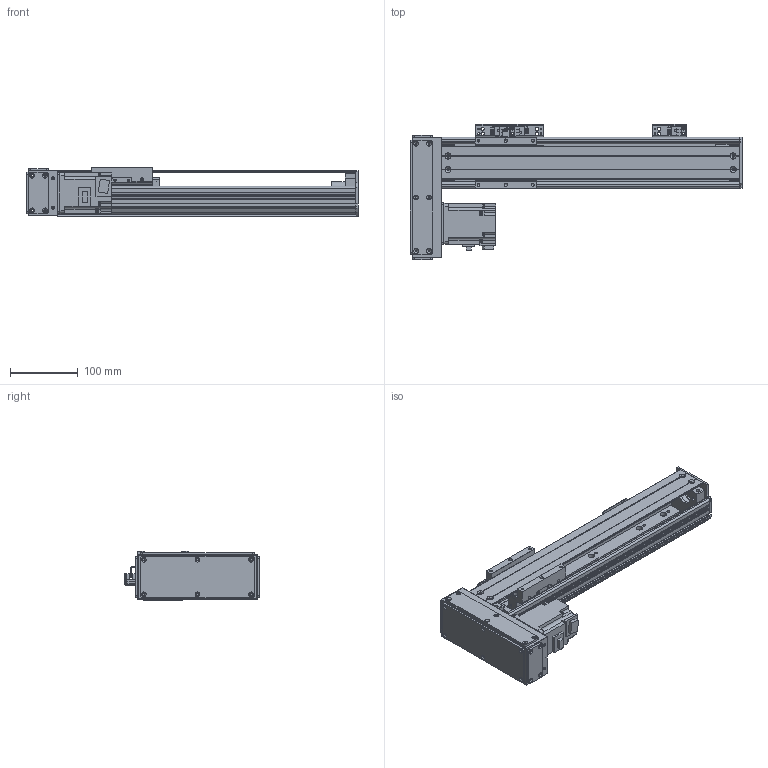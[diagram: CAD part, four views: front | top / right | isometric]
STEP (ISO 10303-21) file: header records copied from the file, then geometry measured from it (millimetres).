
FILE_DESCRIPTION(/* description */ (''),/* implementation_level */ '2;1');
FILE_NAME(/* name */ '\\192.168.0.160\disk1\HAN SHIN Master\B-설계부문\C-표준\B-2024년\BC02-표준도면\+로봇 개선표준도면\홈페이지 표준 도면\홈페이지 최종 작업 폴더\3D\HR\HR75\HR75병렬\우병렬\HR75-R20-N1B-0250-L10.stp',/* time_stamp */ '2025-01-18T16:06:08+09:00',/* author */ ('user'),/* organization */ (''),/* preprocessor_version */ 'ST-DEVELOPER v18.1',/* originating_system */ 'Autodesk Inventor 2022',/* authorisation */ '');
FILE_SCHEMA (('CONFIG_CONTROL_DESIGN'));
Products named in the file (23): HG75-L20-N1B-0500-R10 - 간소화; BASE; HR75 FRONT BLOCK; HR75 REAR COVER-TENTION; HR75 TENSION REAR BLOCK; HG3UPCOV001; H 15F_BLOCK; HG90STOPPER - 20L; HG90STOPPER - 27L; MOTOR PLATE-200W(MITSUBISHI); 화살표; hg-kr23_; M-5HL-4; HR75 W TABLE; LMKE1520 NUT; HR75-LR-BELT COVER(200W); HR75-BELT COVER-COVER2; HR75-BELT COVER-COVER; HR65-BELT COVER-COVER3; HC75-LR-MOTOR PLATE(200W)-사출_MIR; HR65,75 SENSOR DOG; EE_SX674A; SENSOR BRK(EE-SX674A)
Assembly tree (28 placements, depth 2):
  HG75-L20-N1B-0500-R10 - 간소화
    BASE
    HR75 FRONT BLOCK
    HR75 REAR COVER-TENTION
    HR75 TENSION REAR BLOCK
    HG3UPCOV001
    H 15F_BLOCK
    HG90STOPPER - 20L
    HG90STOPPER - 27L
    MOTOR PLATE-200W(MITSUBISHI)
    화살표  x2
    hg-kr23_
    M-5HL-4
    HR75 W TABLE
    LMKE1520 NUT
    SENSOR BRK(EE-SX674A)  x3
    EE_SX674A  x3
    HR75-LR-BELT COVER(200W)
    HR75-BELT COVER-COVER2
    HR75-BELT COVER-COVER
    HR65-BELT COVER-COVER3  x2
    HC75-LR-MOTOR PLATE(200W)-사출_MIR
    HR65,75 SENSOR DOG
Bounding box: 489 x 199 x 73 mm (x, y, z)
Volume: 1191766.6 mm3; surface area: 509996.9 mm2
Topology: 28 solids, 28 shells, 2914 faces, 8033 edges, 5309 vertices
Faces by surface type: plane 2179, cylinder 620, cone 107, sphere 8
Full cylindrical faces by diameter (mm): 1.8 x1, 2 x4, 2.013 x2, 2.459 x16, 2.5 x2, 3 x8, 3.242 x52, 3.4 x20, 3.5 x6, 4.134 x44, 4.5 x22, 4.917 x5, 5 x31, 5.5 x28, 5.6 x8, 5.8 x4, 5.9 x8, 6 x4, 6.5 x1, 7 x1, 8 x1, 9.5 x24, 14 x1, 15 x3, 17 x1, 20 x1, 25 x2, 28 x1, 32 x2, 33.7 x1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
Entity records: 89652 total; most frequent: CARTESIAN_POINT 15912, ORIENTED_EDGE 14950, DIRECTION 14198, EDGE_CURVE 7475, LINE 6168, VECTOR 6168, VERTEX_POINT 4977, AXIS2_PLACEMENT_3D 4015
